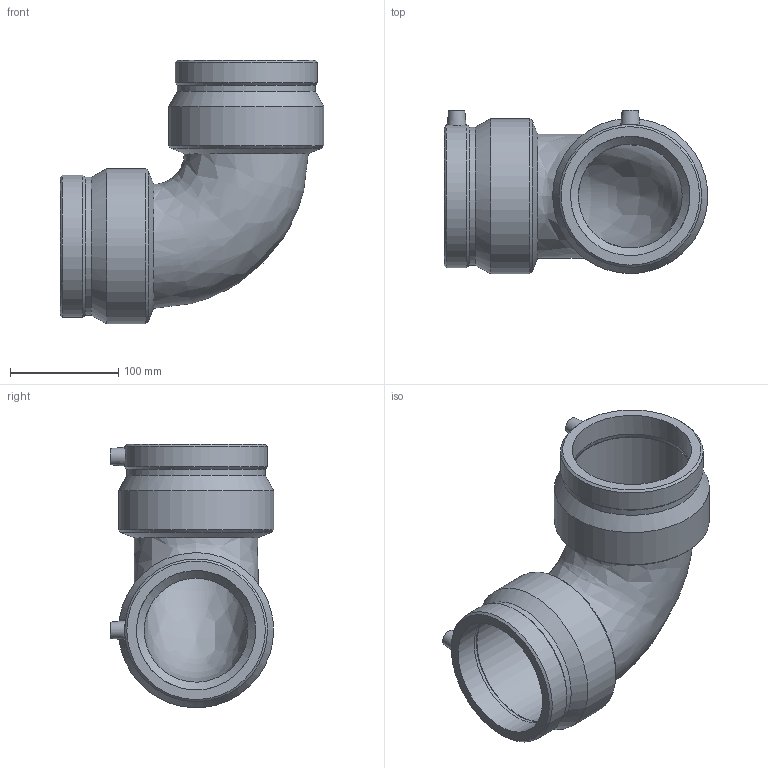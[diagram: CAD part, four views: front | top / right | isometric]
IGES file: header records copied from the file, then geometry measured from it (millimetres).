
Global section: file name: 490504110; native system: Autodesk Inventor 2026; preprocessor: unknown; author: KIM; date: 20260322.131246; units: millimetre
Bounding box: 242.96 x 150.5 x 242.96 mm (x, y, z)
Volume: 1335324.4 mm3; surface area: 243718.5 mm2
Topology: 1 solids, 1 shells, 44 faces, 112 edges, 78 vertices
Faces by surface type: bspline 44
